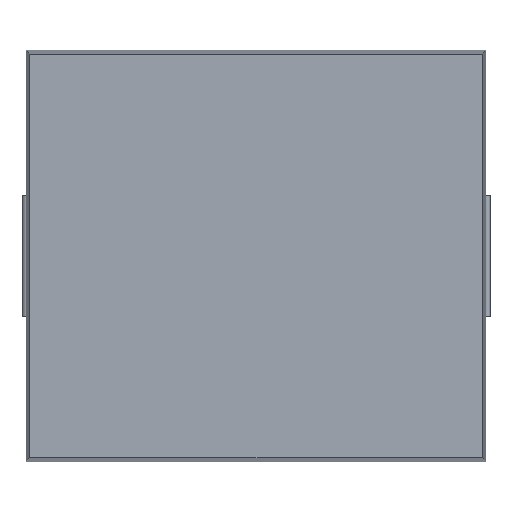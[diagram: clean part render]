
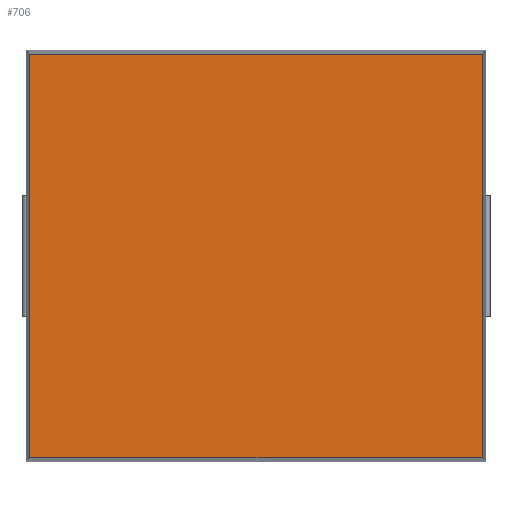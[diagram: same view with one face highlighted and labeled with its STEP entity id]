
A CAD part, top view. The second image highlights one B-rep face of the part: STEP entity #706.
In plain terms, the highlighted planar face has unit normal (0, 0, 1).
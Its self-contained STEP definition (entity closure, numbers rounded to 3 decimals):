
#145 = PLANE('',#146);
#146 = AXIS2_PLACEMENT_3D('',#147,#148,#149);
#147 = CARTESIAN_POINT('',(-5.651,-5.1,2.933));
#148 = DIRECTION('',(0.999,0.,-0.046));
#149 = DIRECTION('',(0.,1.,0.));
#231 = PLANE('',#232);
#232 = AXIS2_PLACEMENT_3D('',#233,#234,#235);
#233 = CARTESIAN_POINT('',(-5.7,-5.051,2.933));
#234 = DIRECTION('',(0.,0.999,-0.046));
#235 = DIRECTION('',(-1.,-0.,-0.));
#328 = VERTEX_POINT('',#329);
#329 = CARTESIAN_POINT('',(-5.603,-5.003,4.));
#352 = VERTEX_POINT('',#353);
#353 = CARTESIAN_POINT('',(-5.603,5.003,4.));
#367 = PLANE('',#368);
#368 = AXIS2_PLACEMENT_3D('',#369,#370,#371);
#369 = CARTESIAN_POINT('',(-5.7,5.051,2.933));
#370 = DIRECTION('',(0.,0.999,0.046));
#371 = DIRECTION('',(-1.,-0.,0.));
#379 = EDGE_CURVE('',#328,#352,#380,.T.);
#380 = SURFACE_CURVE('',#381,(#385,#392),.PCURVE_S1.);
#381 = LINE('',#382,#383);
#382 = CARTESIAN_POINT('',(-5.603,-5.1,4.));
#383 = VECTOR('',#384,1.);
#384 = DIRECTION('',(0.,1.,0.));
#385 = PCURVE('',#145,#386);
#386 = DEFINITIONAL_REPRESENTATION('',(#387),#391);
#387 = LINE('',#388,#389);
#388 = CARTESIAN_POINT('',(0.,1.069));
#389 = VECTOR('',#390,1.);
#390 = DIRECTION('',(1.,0.));
#391 = ( GEOMETRIC_REPRESENTATION_CONTEXT(2) 
PARAMETRIC_REPRESENTATION_CONTEXT() REPRESENTATION_CONTEXT('2D SPACE',''
  ) );
#392 = PCURVE('',#393,#398);
#393 = PLANE('',#394);
#394 = AXIS2_PLACEMENT_3D('',#395,#396,#397);
#395 = CARTESIAN_POINT('',(-5.7,-5.1,4.));
#396 = DIRECTION('',(0.,0.,1.));
#397 = DIRECTION('',(1.,0.,0.));
#398 = DEFINITIONAL_REPRESENTATION('',(#399),#403);
#399 = LINE('',#400,#401);
#400 = CARTESIAN_POINT('',(0.098,0.));
#401 = VECTOR('',#402,1.);
#402 = DIRECTION('',(0.,1.));
#403 = ( GEOMETRIC_REPRESENTATION_CONTEXT(2) 
PARAMETRIC_REPRESENTATION_CONTEXT() REPRESENTATION_CONTEXT('2D SPACE',''
  ) );
#521 = PLANE('',#522);
#522 = AXIS2_PLACEMENT_3D('',#523,#524,#525);
#523 = CARTESIAN_POINT('',(5.651,-5.1,2.933));
#524 = DIRECTION('',(0.999,0.,0.046));
#525 = DIRECTION('',(-0.,1.,0.));
#588 = VERTEX_POINT('',#589);
#589 = CARTESIAN_POINT('',(5.603,-5.003,4.));
#610 = EDGE_CURVE('',#328,#588,#611,.T.);
#611 = SURFACE_CURVE('',#612,(#616,#623),.PCURVE_S1.);
#612 = LINE('',#613,#614);
#613 = CARTESIAN_POINT('',(-5.7,-5.003,4.));
#614 = VECTOR('',#615,1.);
#615 = DIRECTION('',(1.,0.,0.));
#616 = PCURVE('',#231,#617);
#617 = DEFINITIONAL_REPRESENTATION('',(#618),#622);
#618 = LINE('',#619,#620);
#619 = CARTESIAN_POINT('',(-0.,1.069));
#620 = VECTOR('',#621,1.);
#621 = DIRECTION('',(-1.,0.));
#622 = ( GEOMETRIC_REPRESENTATION_CONTEXT(2) 
PARAMETRIC_REPRESENTATION_CONTEXT() REPRESENTATION_CONTEXT('2D SPACE',''
  ) );
#623 = PCURVE('',#393,#624);
#624 = DEFINITIONAL_REPRESENTATION('',(#625),#629);
#625 = LINE('',#626,#627);
#626 = CARTESIAN_POINT('',(0.,0.098));
#627 = VECTOR('',#628,1.);
#628 = DIRECTION('',(1.,0.));
#629 = ( GEOMETRIC_REPRESENTATION_CONTEXT(2) 
PARAMETRIC_REPRESENTATION_CONTEXT() REPRESENTATION_CONTEXT('2D SPACE',''
  ) );
#706 = ADVANCED_FACE('',(#707),#393,.T.);
#707 = FACE_BOUND('',#708,.T.);
#708 = EDGE_LOOP('',(#709,#710,#711,#734));
#709 = ORIENTED_EDGE('',*,*,#379,.F.);
#710 = ORIENTED_EDGE('',*,*,#610,.T.);
#711 = ORIENTED_EDGE('',*,*,#712,.T.);
#712 = EDGE_CURVE('',#588,#713,#715,.T.);
#713 = VERTEX_POINT('',#714);
#714 = CARTESIAN_POINT('',(5.603,5.003,4.));
#715 = SURFACE_CURVE('',#716,(#720,#727),.PCURVE_S1.);
#716 = LINE('',#717,#718);
#717 = CARTESIAN_POINT('',(5.603,-5.1,4.));
#718 = VECTOR('',#719,1.);
#719 = DIRECTION('',(0.,1.,0.));
#720 = PCURVE('',#393,#721);
#721 = DEFINITIONAL_REPRESENTATION('',(#722),#726);
#722 = LINE('',#723,#724);
#723 = CARTESIAN_POINT('',(11.303,0.));
#724 = VECTOR('',#725,1.);
#725 = DIRECTION('',(0.,1.));
#726 = ( GEOMETRIC_REPRESENTATION_CONTEXT(2) 
PARAMETRIC_REPRESENTATION_CONTEXT() REPRESENTATION_CONTEXT('2D SPACE',''
  ) );
#727 = PCURVE('',#521,#728);
#728 = DEFINITIONAL_REPRESENTATION('',(#729),#733);
#729 = LINE('',#730,#731);
#730 = CARTESIAN_POINT('',(0.,1.069));
#731 = VECTOR('',#732,1.);
#732 = DIRECTION('',(1.,0.));
#733 = ( GEOMETRIC_REPRESENTATION_CONTEXT(2) 
PARAMETRIC_REPRESENTATION_CONTEXT() REPRESENTATION_CONTEXT('2D SPACE',''
  ) );
#734 = ORIENTED_EDGE('',*,*,#735,.F.);
#735 = EDGE_CURVE('',#352,#713,#736,.T.);
#736 = SURFACE_CURVE('',#737,(#741,#748),.PCURVE_S1.);
#737 = LINE('',#738,#739);
#738 = CARTESIAN_POINT('',(-5.7,5.003,4.));
#739 = VECTOR('',#740,1.);
#740 = DIRECTION('',(1.,0.,0.));
#741 = PCURVE('',#393,#742);
#742 = DEFINITIONAL_REPRESENTATION('',(#743),#747);
#743 = LINE('',#744,#745);
#744 = CARTESIAN_POINT('',(0.,10.103));
#745 = VECTOR('',#746,1.);
#746 = DIRECTION('',(1.,0.));
#747 = ( GEOMETRIC_REPRESENTATION_CONTEXT(2) 
PARAMETRIC_REPRESENTATION_CONTEXT() REPRESENTATION_CONTEXT('2D SPACE',''
  ) );
#748 = PCURVE('',#367,#749);
#749 = DEFINITIONAL_REPRESENTATION('',(#750),#754);
#750 = LINE('',#751,#752);
#751 = CARTESIAN_POINT('',(-0.,1.069));
#752 = VECTOR('',#753,1.);
#753 = DIRECTION('',(-1.,0.));
#754 = ( GEOMETRIC_REPRESENTATION_CONTEXT(2) 
PARAMETRIC_REPRESENTATION_CONTEXT() REPRESENTATION_CONTEXT('2D SPACE',''
  ) );
